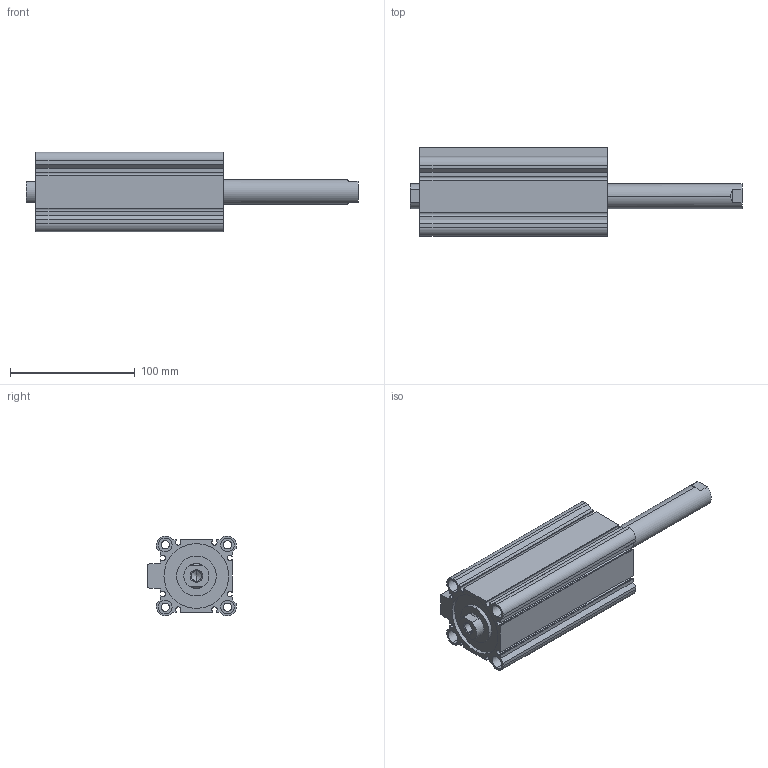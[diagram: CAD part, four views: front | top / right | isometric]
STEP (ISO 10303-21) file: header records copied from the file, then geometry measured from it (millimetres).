
FILE_DESCRIPTION (( 'STEP AP203' ), '1' );
FILE_NAME ('CCMB50-100F-P.STEP', '2020-08-05T11:45:02', ( '' ), ( '' ), 'SwSTEP 2.0', 'SolidWorks 2019', '' );
FILE_SCHEMA (( 'CONFIG_CONTROL_DESIGN' ));
Length unit declared in the file: millimetre
Products named in the file (1): CCMB50-100F-P
Bounding box: 266.5 x 71 x 64 mm (x, y, z)
Volume: 382844.5 mm3; surface area: 122216.2 mm2
Topology: 2 solids, 2 shells, 164 faces, 414 edges, 270 vertices
Faces by surface type: plane 78, cylinder 74, cone 12
Entity records: 5025 total; most frequent: DIRECTION 888, CARTESIAN_POINT 869, ORIENTED_EDGE 820, EDGE_CURVE 410, AXIS2_PLACEMENT_3D 321, VERTEX_POINT 270, LINE 246, VECTOR 246
